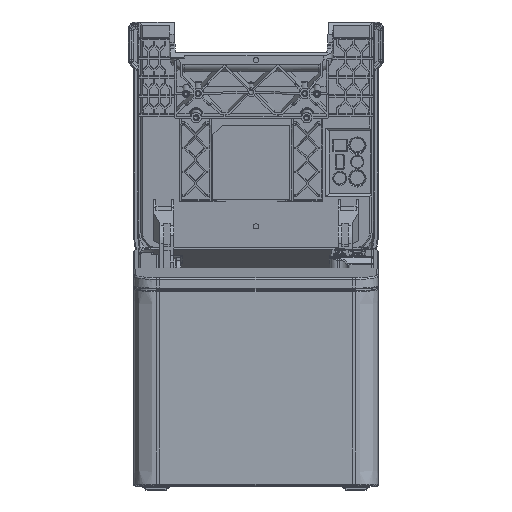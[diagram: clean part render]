
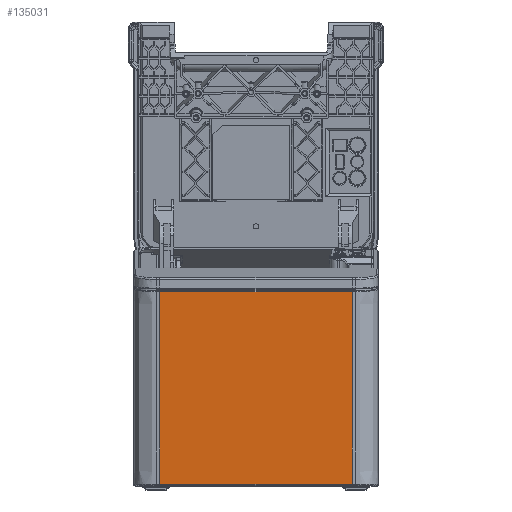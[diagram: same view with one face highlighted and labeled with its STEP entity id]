
A CAD part, top view. The second image highlights one B-rep face of the part: STEP entity #135031.
In plain terms, the highlighted planar face has unit normal (0, -0.07, 0.998).
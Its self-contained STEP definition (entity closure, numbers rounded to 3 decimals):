
#129939=DIRECTION('',(0.,-0.998,-0.07));
#129940=VECTOR('',#129939,110.355);
#129941=CARTESIAN_POINT('',(55.,76.016,15.463));
#129942=LINE('',#129941,#129940);
#129946=CARTESIAN_POINT('',(55.,76.016,15.463));
#130420=DIRECTION('',(-1.,0.,0.));
#130421=VECTOR('',#130420,110.);
#130422=CARTESIAN_POINT('',(55.,-34.07,7.765));
#130423=LINE('',#130422,#130421);
#130424=DIRECTION('',(0.,-0.998,-0.07));
#130425=VECTOR('',#130424,110.355);
#130426=CARTESIAN_POINT('',(-55.,76.016,15.463));
#130427=LINE('',#130426,#130425);
#130428=DIRECTION('',(1.,0.,0.));
#130429=VECTOR('',#130428,110.);
#130430=CARTESIAN_POINT('',(-55.,76.016,15.463));
#130431=LINE('',#130430,#130429);
#130498=CARTESIAN_POINT('',(-55.,76.016,15.463));
#131333=CARTESIAN_POINT('',(55.,-34.07,7.765));
#131334=CARTESIAN_POINT('',(-55.,-34.07,7.765));
#131335=VERTEX_POINT('',#131333);
#131336=VERTEX_POINT('',#131334);
#131492=VERTEX_POINT('',#129946);
#131494=VERTEX_POINT('',#130498);
#135018=CARTESIAN_POINT('',(-70.,84.029,16.023));
#135019=DIRECTION('',(0.,-0.07,0.998));
#135020=DIRECTION('',(0.,-0.998,-0.07));
#135021=AXIS2_PLACEMENT_3D('',#135018,#135019,#135020);
#135022=PLANE('',#135021);
#135024=ORIENTED_EDGE('',*,*,#135023,.T.);
#135026=ORIENTED_EDGE('',*,*,#135025,.F.);
#135027=ORIENTED_EDGE('',*,*,#134993,.T.);
#135028=ORIENTED_EDGE('',*,*,#134220,.T.);
#135029=EDGE_LOOP('',(#135024,#135026,#135027,#135028));
#135030=FACE_OUTER_BOUND('',#135029,.F.);
#134220=EDGE_CURVE('',#131492,#131335,#129942,.T.);
#134993=EDGE_CURVE('',#131494,#131492,#130431,.T.);
#135023=EDGE_CURVE('',#131335,#131336,#130423,.T.);
#135025=EDGE_CURVE('',#131494,#131336,#130427,.T.);
#135031=ADVANCED_FACE('',(#135030),#135022,.T.);
